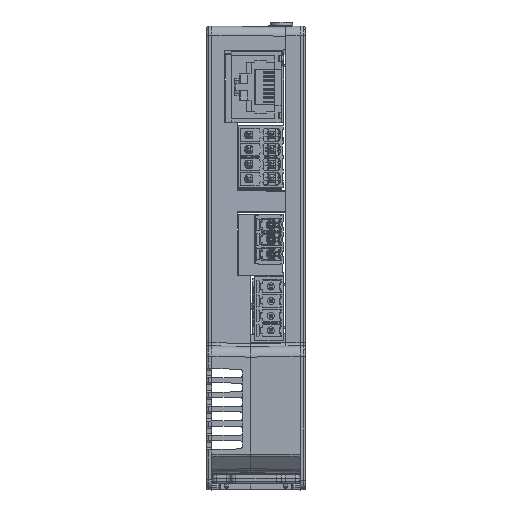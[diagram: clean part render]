
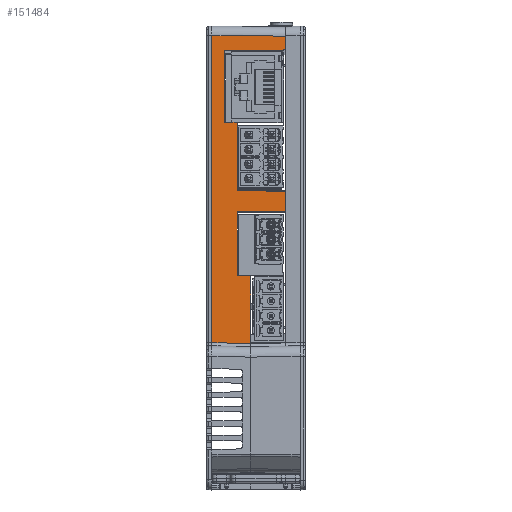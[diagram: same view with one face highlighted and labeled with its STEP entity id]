
A CAD part, front view. The second image highlights one B-rep face of the part: STEP entity #151484.
In plain terms, the highlighted planar face has unit normal (0.009, -1, 0).
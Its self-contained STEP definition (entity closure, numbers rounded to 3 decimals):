
#3924 = ORIENTED_EDGE ( 'NONE', *, *, #243726, .F. ) ;
#4786 = CARTESIAN_POINT ( 'NONE',  ( -19.335, -42.681, 104.943 ) ) ;
#5794 = CARTESIAN_POINT ( 'NONE',  ( -4.65, -42.553, 66.472 ) ) ;
#8895 = ORIENTED_EDGE ( 'NONE', *, *, #140913, .F. ) ;
#9064 = CARTESIAN_POINT ( 'NONE',  ( -22.3, -42.707, 108.543 ) ) ;
#10982 = VECTOR ( 'NONE', #55749, 1000. ) ;
#11618 = LINE ( 'NONE', #194198, #267113 ) ;
#12680 = VECTOR ( 'NONE', #192714, 1000. ) ;
#13767 = EDGE_CURVE ( 'NONE', #23936, #283922, #294077, .T. ) ;
#14592 = EDGE_CURVE ( 'NONE', #280554, #15798, #78092, .T. ) ;
#15798 = VERTEX_POINT ( 'NONE', #19094 ) ;
#18335 = ORIENTED_EDGE ( 'NONE', *, *, #220490, .T. ) ;
#19094 = CARTESIAN_POINT ( 'NONE',  ( -16.238, -42.654, 71.391 ) ) ;
#20275 = CARTESIAN_POINT ( 'NONE',  ( -16.238, -42.654, 3.793 ) ) ;
#22663 = EDGE_LOOP ( 'NONE', ( #41853, #8895, #93916, #3924, #108439, #208584, #186556, #39593, #268259, #18335, #287218, #202856, #207734, #248203 ) ) ;
#23936 = VERTEX_POINT ( 'NONE', #134655 ) ;
#26671 = VERTEX_POINT ( 'NONE', #178637 ) ;
#29196 = EDGE_CURVE ( 'NONE', #270770, #26671, #176808, .T. ) ;
#33902 = CARTESIAN_POINT ( 'NONE',  ( -19.329, -42.681, 104.943 ) ) ;
#39593 = ORIENTED_EDGE ( 'NONE', *, *, #170516, .F. ) ;
#41853 = ORIENTED_EDGE ( 'NONE', *, *, #14592, .T. ) ;
#42473 = VECTOR ( 'NONE', #163867, 1000. ) ;
#43462 = VECTOR ( 'NONE', #125913, 1000. ) ;
#46822 = EDGE_CURVE ( 'NONE', #54755, #291329, #246570, .T. ) ;
#49269 = CARTESIAN_POINT ( 'NONE',  ( -16.235, -42.654, 51.071 ) ) ;
#54755 = VERTEX_POINT ( 'NONE', #259150 ) ;
#55749 = DIRECTION ( 'NONE',  ( 0., 0., -1. ) ) ;
#58727 = PLANE ( 'NONE',  #159881 ) ;
#63600 = DIRECTION ( 'NONE',  ( -1., -0.009, 0.009 ) ) ;
#64956 = VECTOR ( 'NONE', #271776, 1000. ) ;
#71864 = CARTESIAN_POINT ( 'NONE',  ( -21.386, -42.699, 108.535 ) ) ;
#78092 = LINE ( 'NONE', #124849, #218976 ) ;
#80902 = VECTOR ( 'NONE', #216301, 1000. ) ;
#82362 = VECTOR ( 'NONE', #243622, 1000. ) ;
#87662 = CARTESIAN_POINT ( 'NONE',  ( -16.235, -42.654, 3.793 ) ) ;
#88181 = CARTESIAN_POINT ( 'NONE',  ( -13.05, -42.626, 51.043 ) ) ;
#89820 = VERTEX_POINT ( 'NONE', #4786 ) ;
#90651 = LINE ( 'NONE', #87662, #64956 ) ;
#93916 = ORIENTED_EDGE ( 'NONE', *, *, #29196, .T. ) ;
#99572 = DIRECTION ( 'NONE',  ( -1., -0.009, 0.009 ) ) ;
#105128 = DIRECTION ( 'NONE',  ( 0., 0., 1. ) ) ;
#108439 = ORIENTED_EDGE ( 'NONE', *, *, #253978, .T. ) ;
#110309 = CARTESIAN_POINT ( 'NONE',  ( -16.238, -42.654, 87.786 ) ) ;
#124849 = CARTESIAN_POINT ( 'NONE',  ( -16.232, -42.654, 71.391 ) ) ;
#125913 = DIRECTION ( 'NONE',  ( 1., 0.009, 0.009 ) ) ;
#129225 = CARTESIAN_POINT ( 'NONE',  ( -4.65, -42.553, 3.793 ) ) ;
#131485 = VERTEX_POINT ( 'NONE', #180134 ) ;
#134655 = CARTESIAN_POINT ( 'NONE',  ( -16.235, -42.654, 66.371 ) ) ;
#137155 = EDGE_CURVE ( 'NONE', #280554, #283922, #218347, .T. ) ;
#139394 = DIRECTION ( 'NONE',  ( 0., 0., -1. ) ) ;
#140913 = EDGE_CURVE ( 'NONE', #270770, #15798, #183167, .T. ) ;
#151484 = ADVANCED_FACE ( 'NONE', ( #262516 ), #58727, .T. ) ;
#151775 = CARTESIAN_POINT ( 'NONE',  ( -4.65, -42.553, 71.29 ) ) ;
#159881 = AXIS2_PLACEMENT_3D ( 'NONE', #285146, #288128, #242853 ) ;
#160791 = DIRECTION ( 'NONE',  ( -1., -0.009, 0.009 ) ) ;
#163867 = DIRECTION ( 'NONE',  ( -1., -0.009, 0.009 ) ) ;
#164097 = VECTOR ( 'NONE', #202009, 1000. ) ;
#166931 = EDGE_CURVE ( 'NONE', #23936, #197277, #90651, .T. ) ;
#170403 = LINE ( 'NONE', #194530, #10982 ) ;
#170516 = EDGE_CURVE ( 'NONE', #54755, #254678, #237475, .T. ) ;
#174129 = CARTESIAN_POINT ( 'NONE',  ( -13.033, -42.626, 34.836 ) ) ;
#176808 = LINE ( 'NONE', #181232, #187535 ) ;
#178637 = CARTESIAN_POINT ( 'NONE',  ( -19.335, -42.681, 87.813 ) ) ;
#180134 = CARTESIAN_POINT ( 'NONE',  ( -4.65, -42.553, 105.071 ) ) ;
#181232 = CARTESIAN_POINT ( 'NONE',  ( -19.329, -42.681, 87.813 ) ) ;
#181648 = VERTEX_POINT ( 'NONE', #88181 ) ;
#183167 = LINE ( 'NONE', #20275, #230224 ) ;
#185032 = EDGE_CURVE ( 'NONE', #251572, #131485, #252430, .T. ) ;
#186556 = ORIENTED_EDGE ( 'NONE', *, *, #236049, .T. ) ;
#187535 = VECTOR ( 'NONE', #63600, 1000. ) ;
#190453 = CARTESIAN_POINT ( 'NONE',  ( -4.65, -42.553, 108.389 ) ) ;
#192134 = CARTESIAN_POINT ( 'NONE',  ( -22.3, -42.707, 110.793 ) ) ;
#192714 = DIRECTION ( 'NONE',  ( 0., 0., -1. ) ) ;
#194198 = CARTESIAN_POINT ( 'NONE',  ( -13.05, -42.626, 3.793 ) ) ;
#194530 = CARTESIAN_POINT ( 'NONE',  ( -19.335, -42.681, 3.793 ) ) ;
#197277 = VERTEX_POINT ( 'NONE', #49269 ) ;
#202009 = DIRECTION ( 'NONE',  ( 1., 0.009, 0.009 ) ) ;
#202856 = ORIENTED_EDGE ( 'NONE', *, *, #166931, .F. ) ;
#207734 = ORIENTED_EDGE ( 'NONE', *, *, #13767, .T. ) ;
#208584 = ORIENTED_EDGE ( 'NONE', *, *, #185032, .F. ) ;
#209085 = CARTESIAN_POINT ( 'NONE',  ( -13.05, -42.626, 34.837 ) ) ;
#216301 = DIRECTION ( 'NONE',  ( 0., 0., 1. ) ) ;
#218347 = LINE ( 'NONE', #129225, #12680 ) ;
#218976 = VECTOR ( 'NONE', #160791, 1000. ) ;
#220490 = EDGE_CURVE ( 'NONE', #291329, #181648, #11618, .T. ) ;
#221701 = CARTESIAN_POINT ( 'NONE',  ( -16.229, -42.654, 66.371 ) ) ;
#229826 = DIRECTION ( 'NONE',  ( 0., 0., -1. ) ) ;
#230224 = VECTOR ( 'NONE', #139394, 1000. ) ;
#236049 = EDGE_CURVE ( 'NONE', #251572, #254678, #258953, .T. ) ;
#237475 = LINE ( 'NONE', #192134, #80902 ) ;
#240669 = LINE ( 'NONE', #33902, #43462 ) ;
#242853 = DIRECTION ( 'NONE',  ( 0., 0., -1. ) ) ;
#243622 = DIRECTION ( 'NONE',  ( 1., 0.009, -0.022 ) ) ;
#243726 = EDGE_CURVE ( 'NONE', #89820, #26671, #170403, .T. ) ;
#246570 = LINE ( 'NONE', #174129, #82362 ) ;
#248203 = ORIENTED_EDGE ( 'NONE', *, *, #137155, .F. ) ;
#251572 = VERTEX_POINT ( 'NONE', #190453 ) ;
#252430 = LINE ( 'NONE', #278050, #269149 ) ;
#253978 = EDGE_CURVE ( 'NONE', #89820, #131485, #240669, .T. ) ;
#254678 = VERTEX_POINT ( 'NONE', #9064 ) ;
#258953 = LINE ( 'NONE', #71864, #42473 ) ;
#259150 = CARTESIAN_POINT ( 'NONE',  ( -22.3, -42.707, 35.043 ) ) ;
#261013 = CARTESIAN_POINT ( 'NONE',  ( -16.229, -42.654, 51.071 ) ) ;
#262516 = FACE_OUTER_BOUND ( 'NONE', #22663, .T. ) ;
#266355 = VECTOR ( 'NONE', #99572, 1000. ) ;
#267113 = VECTOR ( 'NONE', #105128, 1000. ) ;
#268259 = ORIENTED_EDGE ( 'NONE', *, *, #46822, .T. ) ;
#269149 = VECTOR ( 'NONE', #229826, 1000. ) ;
#270770 = VERTEX_POINT ( 'NONE', #110309 ) ;
#271776 = DIRECTION ( 'NONE',  ( 0., 0., -1. ) ) ;
#278050 = CARTESIAN_POINT ( 'NONE',  ( -4.65, -42.553, 3.793 ) ) ;
#279168 = LINE ( 'NONE', #261013, #266355 ) ;
#280554 = VERTEX_POINT ( 'NONE', #151775 ) ;
#283922 = VERTEX_POINT ( 'NONE', #5794 ) ;
#285146 = CARTESIAN_POINT ( 'NONE',  ( -22.3, -42.707, 3.793 ) ) ;
#285610 = EDGE_CURVE ( 'NONE', #181648, #197277, #279168, .T. ) ;
#287218 = ORIENTED_EDGE ( 'NONE', *, *, #285610, .T. ) ;
#288128 = DIRECTION ( 'NONE',  ( 0.009, -1., 0. ) ) ;
#291329 = VERTEX_POINT ( 'NONE', #209085 ) ;
#294077 = LINE ( 'NONE', #221701, #164097 ) ;
